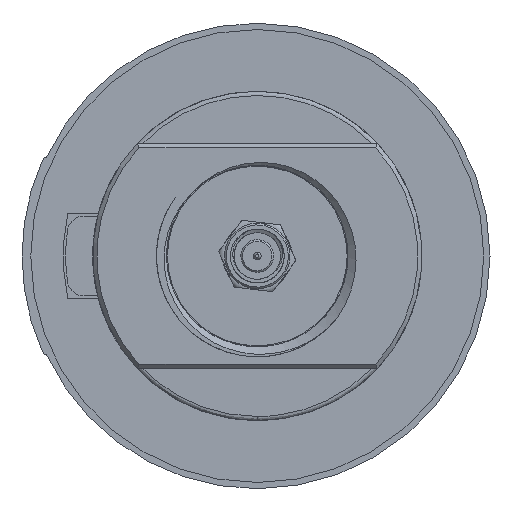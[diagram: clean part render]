
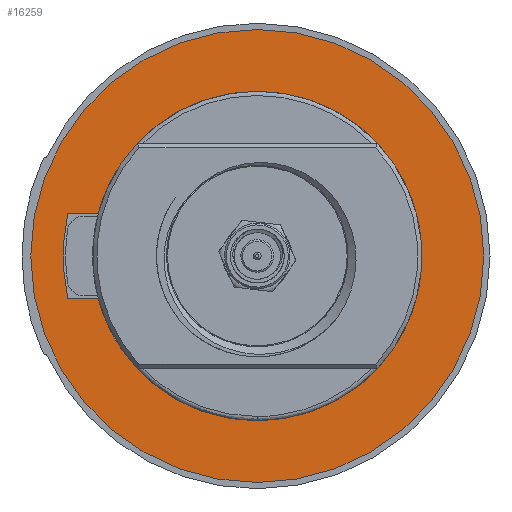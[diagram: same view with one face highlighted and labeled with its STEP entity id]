
A CAD part, front view. The second image highlights one B-rep face of the part: STEP entity #16259.
In plain terms, the highlighted planar face has unit normal (0, -1, 0) as drawn and (0, 0, -1) by its records, which use the part's own axes.
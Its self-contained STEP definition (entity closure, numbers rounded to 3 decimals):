
#123 = DIRECTION ( 'NONE',  ( -1., 0., 0. ) ) ;
#746 = FACE_BOUND ( 'NONE', #1351, .T. ) ;
#873 = ORIENTED_EDGE ( 'NONE', *, *, #14933, .T. ) ;
#1344 = CARTESIAN_POINT ( 'NONE',  ( 41., 24., -6. ) ) ;
#1351 = EDGE_LOOP ( 'NONE', ( #10837, #873, #18074, #10687, #13180, #9862 ) ) ;
#1355 = CIRCLE ( 'NONE', #18546, 17. ) ;
#1550 = CARTESIAN_POINT ( 'NONE',  ( 50.96, 24., -6. ) ) ;
#1571 = DIRECTION ( 'NONE',  ( -1., 0., 0. ) ) ;
#1815 = DIRECTION ( 'NONE',  ( -1., 0., 0. ) ) ;
#2129 = EDGE_LOOP ( 'NONE', ( #6752, #20492 ) ) ;
#2586 = CIRCLE ( 'NONE', #11472, 26.96 ) ;
#2866 = LINE ( 'NONE', #12544, #19873 ) ;
#3536 = CIRCLE ( 'NONE', #14699, 23.1 ) ;
#3589 = EDGE_CURVE ( 'NONE', #5534, #16268, #16912, .T. ) ;
#4238 = VERTEX_POINT ( 'NONE', #5248 ) ;
#4254 = AXIS2_PLACEMENT_3D ( 'NONE', #18070, #4936, #123 ) ;
#4330 = DIRECTION ( 'NONE',  ( 0., 1., 0. ) ) ;
#4381 = EDGE_CURVE ( 'NONE', #16539, #9613, #12174, .T. ) ;
#4639 = CIRCLE ( 'NONE', #10967, 26.96 ) ;
#4866 = CARTESIAN_POINT ( 'NONE',  ( 18.95, 45.665, -6. ) ) ;
#4936 = DIRECTION ( 'NONE',  ( 0., 0., 1. ) ) ;
#5248 = CARTESIAN_POINT ( 'NONE',  ( 18.95, 46.541, -6. ) ) ;
#5534 = VERTEX_POINT ( 'NONE', #1344 ) ;
#5952 = CARTESIAN_POINT ( 'NONE',  ( 18.95, 40.233, -6. ) ) ;
#6022 = VERTEX_POINT ( 'NONE', #20889 ) ;
#6155 = DIRECTION ( 'NONE',  ( 0., 0., 1. ) ) ;
#6403 = CARTESIAN_POINT ( 'NONE',  ( 13.782, 45.665, -6. ) ) ;
#6752 = ORIENTED_EDGE ( 'NONE', *, *, #8159, .T. ) ;
#7084 = DIRECTION ( 'NONE',  ( 0., 0., -1. ) ) ;
#7436 = AXIS2_PLACEMENT_3D ( 'NONE', #19877, #10009, #1815 ) ;
#7986 = CARTESIAN_POINT ( 'NONE',  ( 29.05, 40.233, -6. ) ) ;
#8033 = DIRECTION ( 'NONE',  ( 0., 0., -1. ) ) ;
#8159 = EDGE_CURVE ( 'NONE', #16593, #15778, #4639, .T. ) ;
#9497 = FACE_OUTER_BOUND ( 'NONE', #2129, .T. ) ;
#9613 = VERTEX_POINT ( 'NONE', #18832 ) ;
#9773 = PLANE ( 'NONE',  #20182 ) ;
#9862 = ORIENTED_EDGE ( 'NONE', *, *, #15331, .T. ) ;
#10009 = DIRECTION ( 'NONE',  ( 0., 0., 1. ) ) ;
#10687 = ORIENTED_EDGE ( 'NONE', *, *, #17914, .T. ) ;
#10837 = ORIENTED_EDGE ( 'NONE', *, *, #16582, .T. ) ;
#10967 = AXIS2_PLACEMENT_3D ( 'NONE', #11388, #8033, #16635 ) ;
#11388 = CARTESIAN_POINT ( 'NONE',  ( 24., 24., -6. ) ) ;
#11472 = AXIS2_PLACEMENT_3D ( 'NONE', #20243, #7084, #11942 ) ;
#11942 = DIRECTION ( 'NONE',  ( -1., 0., 0. ) ) ;
#12174 = CIRCLE ( 'NONE', #4254, 17. ) ;
#12277 = CARTESIAN_POINT ( 'NONE',  ( -2.96, 24., -6. ) ) ;
#12544 = CARTESIAN_POINT ( 'NONE',  ( 29.05, 45.665, -6. ) ) ;
#13180 = ORIENTED_EDGE ( 'NONE', *, *, #3589, .T. ) ;
#14699 = AXIS2_PLACEMENT_3D ( 'NONE', #15636, #19200, #17281 ) ;
#14933 = EDGE_CURVE ( 'NONE', #4238, #16539, #17546, .T. ) ;
#15331 = EDGE_CURVE ( 'NONE', #16268, #6022, #2866, .T. ) ;
#15627 = EDGE_CURVE ( 'NONE', #15778, #16593, #2586, .T. ) ;
#15636 = CARTESIAN_POINT ( 'NONE',  ( 24., 24., -6. ) ) ;
#15778 = VERTEX_POINT ( 'NONE', #1550 ) ;
#16119 = CARTESIAN_POINT ( 'NONE',  ( 24., 24., -6. ) ) ;
#16259 = ADVANCED_FACE ( 'NONE', ( #9497, #746 ), #9773, .T. ) ;
#16268 = VERTEX_POINT ( 'NONE', #7986 ) ;
#16539 = VERTEX_POINT ( 'NONE', #5952 ) ;
#16582 = EDGE_CURVE ( 'NONE', #6022, #4238, #3536, .T. ) ;
#16593 = VERTEX_POINT ( 'NONE', #12277 ) ;
#16635 = DIRECTION ( 'NONE',  ( -1., 0., 0. ) ) ;
#16912 = CIRCLE ( 'NONE', #7436, 17. ) ;
#17281 = DIRECTION ( 'NONE',  ( 1., 0., 0. ) ) ;
#17546 = LINE ( 'NONE', #4866, #18603 ) ;
#17914 = EDGE_CURVE ( 'NONE', #9613, #5534, #1355, .T. ) ;
#18070 = CARTESIAN_POINT ( 'NONE',  ( 24., 24., -6. ) ) ;
#18071 = DIRECTION ( 'NONE',  ( 0., -1., 0. ) ) ;
#18074 = ORIENTED_EDGE ( 'NONE', *, *, #4381, .T. ) ;
#18546 = AXIS2_PLACEMENT_3D ( 'NONE', #16119, #6155, #21196 ) ;
#18603 = VECTOR ( 'NONE', #18071, 1000. ) ;
#18832 = CARTESIAN_POINT ( 'NONE',  ( 7., 24., -6. ) ) ;
#19200 = DIRECTION ( 'NONE',  ( 0., 0., 1. ) ) ;
#19873 = VECTOR ( 'NONE', #4330, 1000. ) ;
#19877 = CARTESIAN_POINT ( 'NONE',  ( 24., 24., -6. ) ) ;
#20182 = AXIS2_PLACEMENT_3D ( 'NONE', #6403, #21310, #1571 ) ;
#20243 = CARTESIAN_POINT ( 'NONE',  ( 24., 24., -6. ) ) ;
#20492 = ORIENTED_EDGE ( 'NONE', *, *, #15627, .T. ) ;
#20889 = CARTESIAN_POINT ( 'NONE',  ( 29.05, 46.541, -6. ) ) ;
#21196 = DIRECTION ( 'NONE',  ( -1., 0., 0. ) ) ;
#21310 = DIRECTION ( 'NONE',  ( 0., 0., -1. ) ) ;
